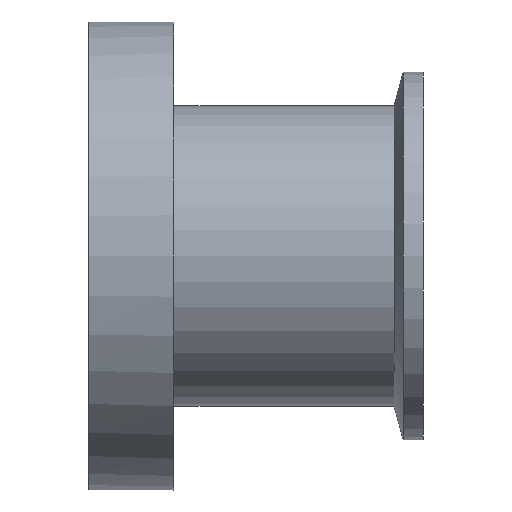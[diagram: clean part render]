
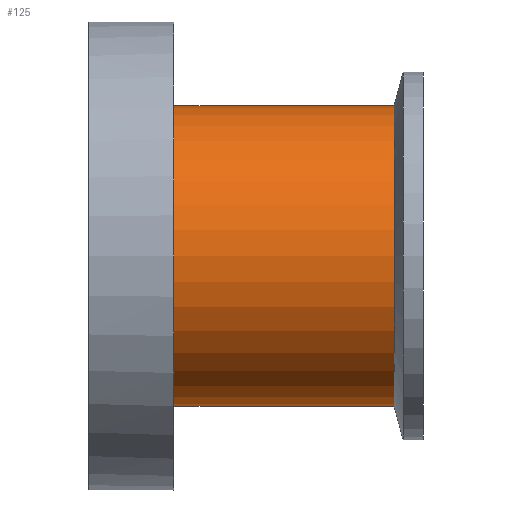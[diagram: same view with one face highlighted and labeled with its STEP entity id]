
A CAD part, front view. The second image highlights one B-rep face of the part: STEP entity #125.
In plain terms, the highlighted cylindrical face has radius 22.5 mm (diameter 45 mm), a full revolution.
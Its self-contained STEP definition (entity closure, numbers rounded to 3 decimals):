
#125 = ADVANCED_FACE( '', ( #256, #257 ), #258, .T. );
#256 = FACE_OUTER_BOUND( '', #386, .T. );
#257 = FACE_OUTER_BOUND( '', #387, .T. );
#258 = CYLINDRICAL_SURFACE( '', #388, 22.5 );
#386 = EDGE_LOOP( '', ( #549 ) );
#387 = EDGE_LOOP( '', ( #550 ) );
#388 = AXIS2_PLACEMENT_3D( '', #551, #552, #553 );
#549 = ORIENTED_EDGE( '', *, *, #646, .F. );
#550 = ORIENTED_EDGE( '', *, *, #673, .T. );
#551 = CARTESIAN_POINT( '', ( 0., 0., 54. ) );
#552 = DIRECTION( '', ( 0., 0., -1. ) );
#553 = DIRECTION( '', ( 1., 0., 0. ) );
#646 = EDGE_CURVE( '', #731, #731, #732, .T. );
#673 = EDGE_CURVE( '', #775, #775, #776, .T. );
#731 = VERTEX_POINT( '', #865 );
#732 = CIRCLE( '', #866, 22.5 );
#775 = VERTEX_POINT( '', #923 );
#776 = CIRCLE( '', #924, 22.5 );
#865 = CARTESIAN_POINT( '', ( 22.5, 0., 45.2 ) );
#866 = AXIS2_PLACEMENT_3D( '', #997, #998, #999 );
#923 = CARTESIAN_POINT( '', ( 22.5, 0., 4.34 ) );
#924 = AXIS2_PLACEMENT_3D( '', #1049, #1050, #1051 );
#997 = CARTESIAN_POINT( '', ( 0., 0., 45.2 ) );
#998 = DIRECTION( '', ( 0., 0., 1. ) );
#999 = DIRECTION( '', ( 1., 0., 0. ) );
#1049 = CARTESIAN_POINT( '', ( 0., 0., 4.34 ) );
#1050 = DIRECTION( '', ( 0., 0., 1. ) );
#1051 = DIRECTION( '', ( 1., 0., 0. ) );
